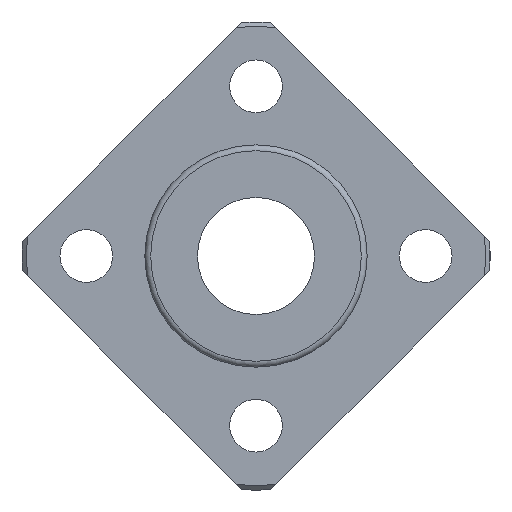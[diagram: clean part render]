
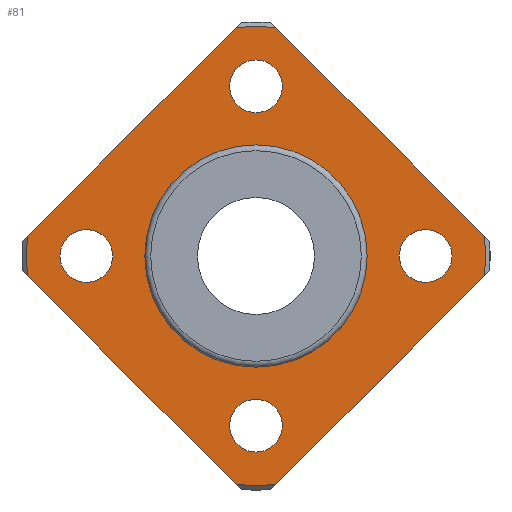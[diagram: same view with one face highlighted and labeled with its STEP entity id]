
A CAD part, left-side view. The second image highlights one B-rep face of the part: STEP entity #81.
In plain terms, the highlighted planar face has unit normal (-1, 0, 0).
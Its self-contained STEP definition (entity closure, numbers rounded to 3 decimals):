
#81=ADVANCED_FACE('',(#124,#125,#126,#127,#128,#129),#130,.T.);
#124=FACE_BOUND('',#224,.T.);
#125=FACE_BOUND('',#225,.T.);
#126=FACE_BOUND('',#226,.T.);
#127=FACE_BOUND('',#227,.T.);
#128=FACE_BOUND('',#228,.T.);
#129=FACE_OUTER_BOUND('',#229,.T.);
#130=PLANE('',#230);
#224=EDGE_LOOP('',(#362));
#225=EDGE_LOOP('',(#363));
#226=EDGE_LOOP('',(#364));
#227=EDGE_LOOP('',(#365));
#228=EDGE_LOOP('',(#366));
#229=EDGE_LOOP('',(#367,#368,#369,#370,#371,#372,#373,#374));
#230=AXIS2_PLACEMENT_3D('',#375,#376,#377);
#362=ORIENTED_EDGE('',*,*,#589,.F.);
#363=ORIENTED_EDGE('',*,*,#590,.T.);
#364=ORIENTED_EDGE('',*,*,#591,.T.);
#365=ORIENTED_EDGE('',*,*,#592,.T.);
#366=ORIENTED_EDGE('',*,*,#593,.T.);
#367=ORIENTED_EDGE('',*,*,#572,.T.);
#368=ORIENTED_EDGE('',*,*,#574,.T.);
#369=ORIENTED_EDGE('',*,*,#594,.T.);
#370=ORIENTED_EDGE('',*,*,#595,.T.);
#371=ORIENTED_EDGE('',*,*,#596,.T.);
#372=ORIENTED_EDGE('',*,*,#562,.T.);
#373=ORIENTED_EDGE('',*,*,#597,.T.);
#374=ORIENTED_EDGE('',*,*,#598,.T.);
#375=CARTESIAN_POINT('',(-6.0,14.425,0.0));
#376=DIRECTION('',(-1.0,0.0,0.));
#377=DIRECTION('',(0.,0.0,1.0));
#562=EDGE_CURVE('',#633,#634,#635,.T.);
#572=EDGE_CURVE('',#654,#652,#655,.T.);
#574=EDGE_CURVE('',#652,#657,#658,.T.);
#589=EDGE_CURVE('',#683,#683,#684,.T.);
#590=EDGE_CURVE('',#685,#685,#686,.T.);
#591=EDGE_CURVE('',#687,#687,#688,.T.);
#592=EDGE_CURVE('',#689,#689,#690,.T.);
#593=EDGE_CURVE('',#691,#691,#692,.T.);
#594=EDGE_CURVE('',#657,#693,#694,.T.);
#595=EDGE_CURVE('',#693,#695,#696,.T.);
#596=EDGE_CURVE('',#695,#633,#697,.T.);
#597=EDGE_CURVE('',#634,#698,#699,.T.);
#598=EDGE_CURVE('',#698,#654,#700,.T.);
#633=VERTEX_POINT('',#759);
#634=VERTEX_POINT('',#760);
#635=LINE('',#761,#762);
#652=VERTEX_POINT('',#794);
#654=VERTEX_POINT('',#799);
#655=CIRCLE('',#800,19.6);
#657=VERTEX_POINT('',#805);
#658=LINE('',#806,#807);
#683=VERTEX_POINT('',#847);
#684=CIRCLE('',#848,9.25);
#685=VERTEX_POINT('',#849);
#686=CIRCLE('',#850,2.25);
#687=VERTEX_POINT('',#851);
#688=CIRCLE('',#852,2.25);
#689=VERTEX_POINT('',#853);
#690=CIRCLE('',#854,2.25);
#691=VERTEX_POINT('',#855);
#692=CIRCLE('',#856,2.25);
#693=VERTEX_POINT('',#857);
#694=CIRCLE('',#858,19.6);
#695=VERTEX_POINT('',#859);
#696=LINE('',#860,#861);
#697=CIRCLE('',#862,19.6);
#698=VERTEX_POINT('',#863);
#699=CIRCLE('',#864,19.6);
#700=LINE('',#865,#866);
#759=CARTESIAN_POINT('',(-6.0,-1.686,-19.527));
#760=CARTESIAN_POINT('',(-6.0,-19.527,-1.686));
#761=CARTESIAN_POINT('',(-6.0,-3.394,-17.819));
#762=VECTOR('',#949,1.0);
#794=CARTESIAN_POINT('',(-6.0,1.686,19.527));
#799=CARTESIAN_POINT('',(-6.0,-1.686,19.527));
#800=AXIS2_PLACEMENT_3D('',#956,#957,#958);
#805=CARTESIAN_POINT('',(-6.0,19.527,1.686));
#806=CARTESIAN_POINT('',(-6.0,17.819,3.394));
#807=VECTOR('',#959,1.0);
#847=CARTESIAN_POINT('',(-6.0,9.25,0.0));
#848=AXIS2_PLACEMENT_3D('',#981,#982,#983);
#849=CARTESIAN_POINT('',(-6.0,14.5,2.25));
#850=AXIS2_PLACEMENT_3D('',#984,#985,#986);
#851=CARTESIAN_POINT('',(-6.0,-14.5,2.25));
#852=AXIS2_PLACEMENT_3D('',#987,#988,#989);
#853=CARTESIAN_POINT('',(-6.0,0.0,16.75));
#854=AXIS2_PLACEMENT_3D('',#990,#991,#992);
#855=CARTESIAN_POINT('',(-6.,0.0,-12.25));
#856=AXIS2_PLACEMENT_3D('',#993,#994,#995);
#857=CARTESIAN_POINT('',(-6.0,19.527,-1.686));
#858=AXIS2_PLACEMENT_3D('',#996,#997,#998);
#859=CARTESIAN_POINT('',(-6.0,1.686,-19.527));
#860=CARTESIAN_POINT('',(-6.0,17.819,-3.394));
#861=VECTOR('',#999,1.0);
#862=AXIS2_PLACEMENT_3D('',#1000,#1001,#1002);
#863=CARTESIAN_POINT('',(-6.0,-19.527,1.686));
#864=AXIS2_PLACEMENT_3D('',#1003,#1004,#1005);
#865=CARTESIAN_POINT('',(-6.0,-3.394,17.819));
#866=VECTOR('',#1006,1.0);
#949=DIRECTION('',(0.,-0.707,0.707));
#956=CARTESIAN_POINT('',(-6.0,0.0,0.0));
#957=DIRECTION('',(-1.0,0.0,0.));
#958=DIRECTION('',(0.0,1.0,0.0));
#959=DIRECTION('',(0.,0.707,-0.707));
#981=CARTESIAN_POINT('',(-6.0,0.0,0.0));
#982=DIRECTION('',(-1.0,0.0,0.));
#983=DIRECTION('',(0.0,1.0,0.0));
#984=CARTESIAN_POINT('',(-6.0,14.5,0.0));
#985=DIRECTION('',(1.0,0.0,0.));
#986=DIRECTION('',(0.,0.0,-1.0));
#987=CARTESIAN_POINT('',(-6.0,-14.5,0.0));
#988=DIRECTION('',(1.0,0.0,0.));
#989=DIRECTION('',(0.,0.0,-1.0));
#990=CARTESIAN_POINT('',(-6.0,0.0,14.5));
#991=DIRECTION('',(1.0,0.0,0.));
#992=DIRECTION('',(0.,0.0,-1.0));
#993=CARTESIAN_POINT('',(-6.,0.0,-14.5));
#994=DIRECTION('',(1.0,0.0,0.));
#995=DIRECTION('',(0.,0.0,-1.0));
#996=CARTESIAN_POINT('',(-6.0,0.0,0.0));
#997=DIRECTION('',(-1.0,0.0,0.));
#998=DIRECTION('',(0.0,1.0,0.0));
#999=DIRECTION('',(0.,-0.707,-0.707));
#1000=CARTESIAN_POINT('',(-6.0,0.0,0.0));
#1001=DIRECTION('',(-1.0,0.0,0.));
#1002=DIRECTION('',(0.0,1.0,0.0));
#1003=CARTESIAN_POINT('',(-6.0,0.0,0.0));
#1004=DIRECTION('',(-1.0,0.0,0.));
#1005=DIRECTION('',(0.0,1.0,0.0));
#1006=DIRECTION('',(0.,0.707,0.707));
